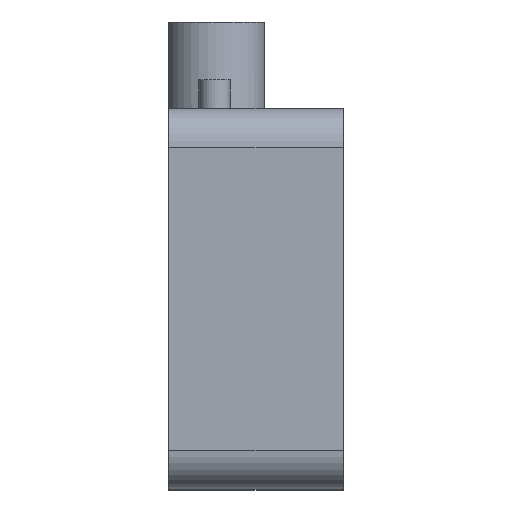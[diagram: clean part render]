
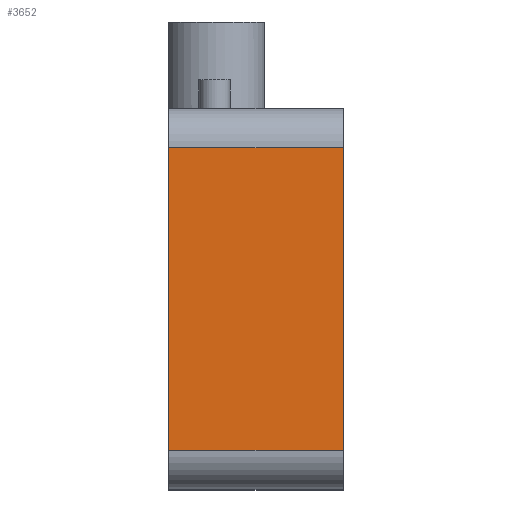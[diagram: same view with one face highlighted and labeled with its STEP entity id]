
A CAD part, top view. The second image highlights one B-rep face of the part: STEP entity #3652.
In plain terms, the highlighted planar face has unit normal (0, 0, 1) as drawn and (0, 1, 0) by its records, which use the part's own axes.
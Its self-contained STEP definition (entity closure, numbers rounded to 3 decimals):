
#151 = PLANE('',#152);
#152 = AXIS2_PLACEMENT_3D('',#153,#154,#155);
#153 = CARTESIAN_POINT('',(0.,0.,15.3)
  );
#154 = DIRECTION('',(0.,0.,1.));
#155 = DIRECTION('',(1.,0.,-0.));
#179 = CYLINDRICAL_SURFACE('',#180,3.);
#180 = AXIS2_PLACEMENT_3D('',#181,#182,#183);
#181 = CARTESIAN_POINT('',(-11.5,10.93,2.));
#182 = DIRECTION('',(-0.,-0.,-1.));
#183 = DIRECTION('',(1.,0.,0.));
#207 = PLANE('',#208);
#208 = AXIS2_PLACEMENT_3D('',#209,#210,#211);
#209 = CARTESIAN_POINT('',(0.,0.,2.));
#210 = DIRECTION('',(0.,0.,1.));
#211 = DIRECTION('',(1.,0.,-0.));
#3427 = CYLINDRICAL_SURFACE('',#3428,3.);
#3428 = AXIS2_PLACEMENT_3D('',#3429,#3430,#3431);
#3429 = CARTESIAN_POINT('',(11.5,10.93,2.));
#3430 = DIRECTION('',(-0.,-0.,-1.));
#3431 = DIRECTION('',(1.,0.,0.));
#3580 = VERTEX_POINT('',#3581);
#3581 = CARTESIAN_POINT('',(11.5,13.93,15.3));
#3603 = EDGE_CURVE('',#3604,#3580,#3606,.T.);
#3604 = VERTEX_POINT('',#3605);
#3605 = CARTESIAN_POINT('',(11.5,13.93,2.));
#3606 = SURFACE_CURVE('',#3607,(#3611,#3618),.PCURVE_S1.);
#3607 = LINE('',#3608,#3609);
#3608 = CARTESIAN_POINT('',(11.5,13.93,2.));
#3609 = VECTOR('',#3610,1.);
#3610 = DIRECTION('',(0.,0.,1.));
#3611 = PCURVE('',#3427,#3612);
#3612 = DEFINITIONAL_REPRESENTATION('',(#3613),#3617);
#3613 = LINE('',#3614,#3615);
#3614 = CARTESIAN_POINT('',(-1.571,0.));
#3615 = VECTOR('',#3616,1.);
#3616 = DIRECTION('',(-0.,-1.));
#3617 = ( GEOMETRIC_REPRESENTATION_CONTEXT(2) 
PARAMETRIC_REPRESENTATION_CONTEXT() REPRESENTATION_CONTEXT('2D SPACE',''
  ) );
#3618 = PCURVE('',#3619,#3624);
#3619 = PLANE('',#3620);
#3620 = AXIS2_PLACEMENT_3D('',#3621,#3622,#3623);
#3621 = CARTESIAN_POINT('',(-11.5,13.93,2.));
#3622 = DIRECTION('',(0.,1.,0.));
#3623 = DIRECTION('',(1.,0.,0.));
#3624 = DEFINITIONAL_REPRESENTATION('',(#3625),#3629);
#3625 = LINE('',#3626,#3627);
#3626 = CARTESIAN_POINT('',(23.,0.));
#3627 = VECTOR('',#3628,1.);
#3628 = DIRECTION('',(0.,-1.));
#3629 = ( GEOMETRIC_REPRESENTATION_CONTEXT(2) 
PARAMETRIC_REPRESENTATION_CONTEXT() REPRESENTATION_CONTEXT('2D SPACE',''
  ) );
#3652 = ADVANCED_FACE('',(#3653),#3619,.T.);
#3653 = FACE_BOUND('',#3654,.T.);
#3654 = EDGE_LOOP('',(#3655,#3680,#3701,#3702));
#3655 = ORIENTED_EDGE('',*,*,#3656,.T.);
#3656 = EDGE_CURVE('',#3657,#3659,#3661,.T.);
#3657 = VERTEX_POINT('',#3658);
#3658 = CARTESIAN_POINT('',(-11.5,13.93,2.));
#3659 = VERTEX_POINT('',#3660);
#3660 = CARTESIAN_POINT('',(-11.5,13.93,15.3));
#3661 = SURFACE_CURVE('',#3662,(#3666,#3673),.PCURVE_S1.);
#3662 = LINE('',#3663,#3664);
#3663 = CARTESIAN_POINT('',(-11.5,13.93,2.));
#3664 = VECTOR('',#3665,1.);
#3665 = DIRECTION('',(0.,0.,1.));
#3666 = PCURVE('',#3619,#3667);
#3667 = DEFINITIONAL_REPRESENTATION('',(#3668),#3672);
#3668 = LINE('',#3669,#3670);
#3669 = CARTESIAN_POINT('',(0.,0.));
#3670 = VECTOR('',#3671,1.);
#3671 = DIRECTION('',(0.,-1.));
#3672 = ( GEOMETRIC_REPRESENTATION_CONTEXT(2) 
PARAMETRIC_REPRESENTATION_CONTEXT() REPRESENTATION_CONTEXT('2D SPACE',''
  ) );
#3673 = PCURVE('',#179,#3674);
#3674 = DEFINITIONAL_REPRESENTATION('',(#3675),#3679);
#3675 = LINE('',#3676,#3677);
#3676 = CARTESIAN_POINT('',(-1.571,0.));
#3677 = VECTOR('',#3678,1.);
#3678 = DIRECTION('',(-0.,-1.));
#3679 = ( GEOMETRIC_REPRESENTATION_CONTEXT(2) 
PARAMETRIC_REPRESENTATION_CONTEXT() REPRESENTATION_CONTEXT('2D SPACE',''
  ) );
#3680 = ORIENTED_EDGE('',*,*,#3681,.T.);
#3681 = EDGE_CURVE('',#3659,#3580,#3682,.T.);
#3682 = SURFACE_CURVE('',#3683,(#3687,#3694),.PCURVE_S1.);
#3683 = LINE('',#3684,#3685);
#3684 = CARTESIAN_POINT('',(0.,13.93,15.3));
#3685 = VECTOR('',#3686,1.);
#3686 = DIRECTION('',(1.,0.,0.));
#3687 = PCURVE('',#3619,#3688);
#3688 = DEFINITIONAL_REPRESENTATION('',(#3689),#3693);
#3689 = LINE('',#3690,#3691);
#3690 = CARTESIAN_POINT('',(11.5,-13.3));
#3691 = VECTOR('',#3692,1.);
#3692 = DIRECTION('',(1.,0.));
#3693 = ( GEOMETRIC_REPRESENTATION_CONTEXT(2) 
PARAMETRIC_REPRESENTATION_CONTEXT() REPRESENTATION_CONTEXT('2D SPACE',''
  ) );
#3694 = PCURVE('',#151,#3695);
#3695 = DEFINITIONAL_REPRESENTATION('',(#3696),#3700);
#3696 = LINE('',#3697,#3698);
#3697 = CARTESIAN_POINT('',(0.,13.93));
#3698 = VECTOR('',#3699,1.);
#3699 = DIRECTION('',(1.,0.));
#3700 = ( GEOMETRIC_REPRESENTATION_CONTEXT(2) 
PARAMETRIC_REPRESENTATION_CONTEXT() REPRESENTATION_CONTEXT('2D SPACE',''
  ) );
#3701 = ORIENTED_EDGE('',*,*,#3603,.F.);
#3702 = ORIENTED_EDGE('',*,*,#3703,.F.);
#3703 = EDGE_CURVE('',#3657,#3604,#3704,.T.);
#3704 = SURFACE_CURVE('',#3705,(#3709,#3716),.PCURVE_S1.);
#3705 = LINE('',#3706,#3707);
#3706 = CARTESIAN_POINT('',(0.,13.93,2.));
#3707 = VECTOR('',#3708,1.);
#3708 = DIRECTION('',(1.,0.,0.));
#3709 = PCURVE('',#3619,#3710);
#3710 = DEFINITIONAL_REPRESENTATION('',(#3711),#3715);
#3711 = LINE('',#3712,#3713);
#3712 = CARTESIAN_POINT('',(11.5,0.));
#3713 = VECTOR('',#3714,1.);
#3714 = DIRECTION('',(1.,0.));
#3715 = ( GEOMETRIC_REPRESENTATION_CONTEXT(2) 
PARAMETRIC_REPRESENTATION_CONTEXT() REPRESENTATION_CONTEXT('2D SPACE',''
  ) );
#3716 = PCURVE('',#207,#3717);
#3717 = DEFINITIONAL_REPRESENTATION('',(#3718),#3722);
#3718 = LINE('',#3719,#3720);
#3719 = CARTESIAN_POINT('',(0.,13.93));
#3720 = VECTOR('',#3721,1.);
#3721 = DIRECTION('',(1.,0.));
#3722 = ( GEOMETRIC_REPRESENTATION_CONTEXT(2) 
PARAMETRIC_REPRESENTATION_CONTEXT() REPRESENTATION_CONTEXT('2D SPACE',''
  ) );
